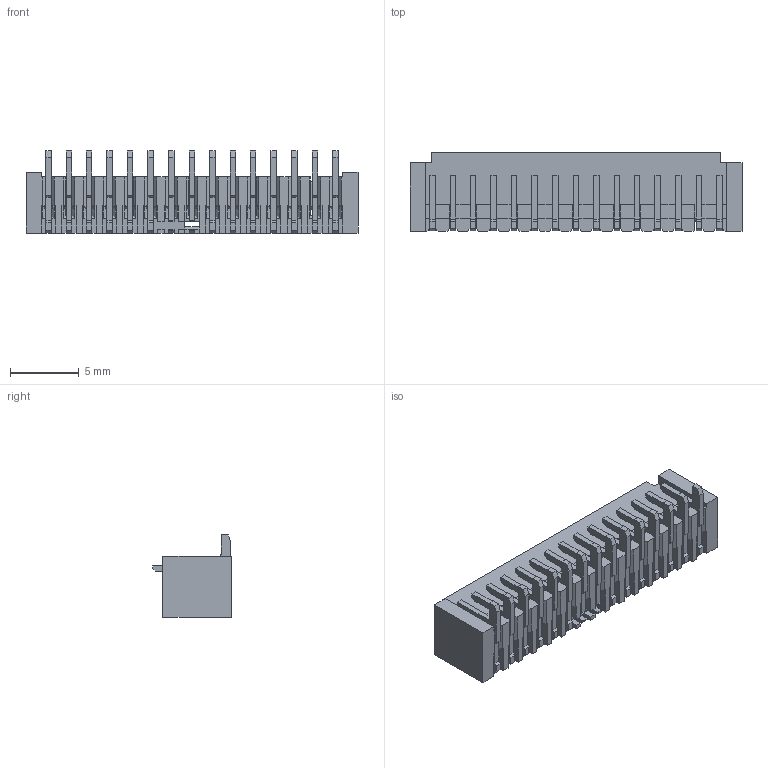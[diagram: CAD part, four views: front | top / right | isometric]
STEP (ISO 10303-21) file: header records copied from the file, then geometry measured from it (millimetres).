
FILE_DESCRIPTION((''),'2;1');
FILE_NAME('PRT0013','2022-06-09T',('d41008'),(''),'CREO PARAMETRIC BY PTC INC, 2014500','CREO PARAMETRIC BY PTC INC, 2014500','');
FILE_SCHEMA(('CONFIG_CONTROL_DESIGN'));
Length unit declared in the file: millimetre
Products named in the file (1): PRT0013
Bounding box: 24.23 x 5.75 x 6 mm (x, y, z)
Volume: 254.1 mm3; surface area: 1114.7 mm2
Topology: 1 solids, 1 shells, 1099 faces, 3592 edges, 2358 vertices
Faces by surface type: plane 990, cylinder 107, cone 2
Entity records: 38759 total; most frequent: CARTESIAN_POINT 6958, ORIENTED_EDGE 6944, DIRECTION 6033, EDGE_CURVE 3472, VECTOR 3373, LINE 3373, VERTEX_POINT 2238, AXIS2_PLACEMENT_3D 1330
